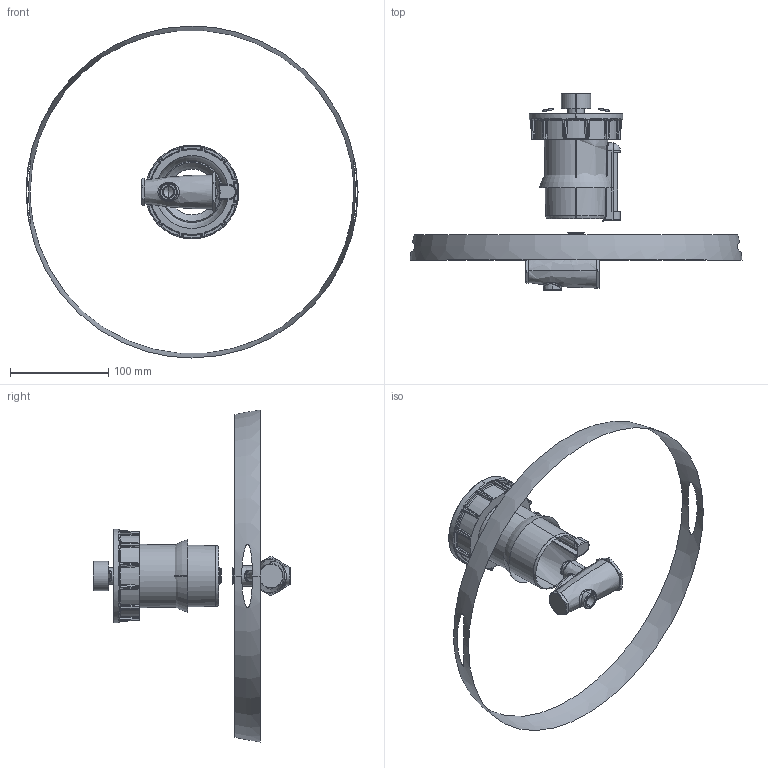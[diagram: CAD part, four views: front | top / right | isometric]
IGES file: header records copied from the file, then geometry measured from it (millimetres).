
Start section: SolidWorks IGES file using analytic representation for surfaces
Global section: file name: D:\Custom\3D繪製\FRL\洩水器\D608W-04.IGS; native system: SolidWorks 2014; preprocessor: SolidWorks 2014; author: Chieh_Lu; date: 160115.023041; units: millimetre
Bounding box: 338.67 x 201 x 338.67 mm (x, y, z)
Surface area: 84821.9 mm2 (no closed solid volume)
Topology: 0 solids, 0 shells, 368 faces, 4820 edges, 4815 vertices
Faces by surface type: bspline 231, revolution 137
